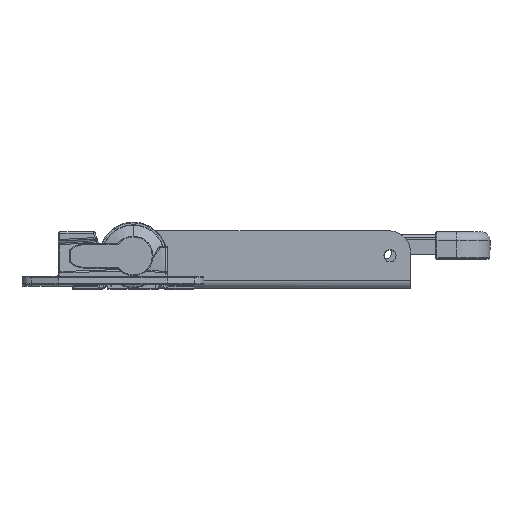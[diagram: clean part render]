
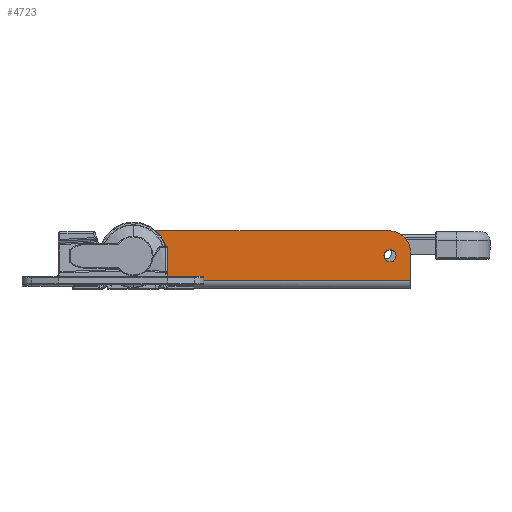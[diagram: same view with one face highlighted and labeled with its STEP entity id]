
A CAD part, top view. The second image highlights one B-rep face of the part: STEP entity #4723.
In plain terms, the highlighted planar face has unit normal (0, 0, 1).
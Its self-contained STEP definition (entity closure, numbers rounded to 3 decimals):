
#100 = AXIS2_PLACEMENT_3D ( 'NONE', #5337, #35393, #9665 ) ;
#169 = AXIS2_PLACEMENT_3D ( 'NONE', #19546, #28204, #2476 ) ;
#379 = CARTESIAN_POINT ( 'NONE',  ( 0., 0., 119. ) ) ;
#471 = EDGE_CURVE ( 'NONE', #25699, #53240, #38177, .T. ) ;
#709 = CARTESIAN_POINT ( 'NONE',  ( 20.076, 38.735, 119. ) ) ;
#712 = ORIENTED_EDGE ( 'NONE', *, *, #11451, .T. ) ;
#948 = FACE_BOUND ( 'NONE', #2206, .T. ) ;
#1162 = VECTOR ( 'NONE', #30846, 1000. ) ;
#2161 = CARTESIAN_POINT ( 'NONE',  ( 17., 21., 119. ) ) ;
#2206 = EDGE_LOOP ( 'NONE', ( #41051, #38574 ) ) ;
#2476 = DIRECTION ( 'NONE',  ( 1., 0., 0. ) ) ;
#2941 = DIRECTION ( 'NONE',  ( 0., 0., 1. ) ) ;
#3908 = ORIENTED_EDGE ( 'NONE', *, *, #44176, .T. ) ;
#4723 = ADVANCED_FACE ( 'NONE', ( #948, #46574, #35238 ), #6607, .T. ) ;
#4906 = EDGE_CURVE ( 'NONE', #27098, #36835, #39916, .T. ) ;
#5337 = CARTESIAN_POINT ( 'NONE',  ( 17., 21., 119. ) ) ;
#5962 = CARTESIAN_POINT ( 'NONE',  ( 5., 21., 119. ) ) ;
#6465 = DIRECTION ( 'NONE',  ( 1., 0., 0. ) ) ;
#6607 = PLANE ( 'NONE',  #169 ) ;
#6833 = CARTESIAN_POINT ( 'NONE',  ( 29., 21., 119. ) ) ;
#8487 = CIRCLE ( 'NONE', #17750, 18. ) ;
#9665 = DIRECTION ( 'NONE',  ( 1., 0., 0. ) ) ;
#9740 = ORIENTED_EDGE ( 'NONE', *, *, #24235, .F. ) ;
#11090 = CARTESIAN_POINT ( 'NONE',  ( 28.619, 88., 119. ) ) ;
#11451 = EDGE_CURVE ( 'NONE', #44495, #48582, #28677, .T. ) ;
#11495 = CIRCLE ( 'NONE', #30649, 4. ) ;
#12089 = EDGE_CURVE ( 'NONE', #48582, #25699, #8487, .T. ) ;
#12489 = LINE ( 'NONE', #30456, #53980 ) ;
#14460 = DIRECTION ( 'NONE',  ( 0., 0., 1. ) ) ;
#15060 = CIRCLE ( 'NONE', #50064, 12. ) ;
#15397 = DIRECTION ( 'NONE',  ( 1., 0., 0. ) ) ;
#15555 = ORIENTED_EDGE ( 'NONE', *, *, #53148, .T. ) ;
#16338 = ORIENTED_EDGE ( 'NONE', *, *, #471, .T. ) ;
#16553 = CARTESIAN_POINT ( 'NONE',  ( 186., 24., 119. ) ) ;
#17171 = CIRCLE ( 'NONE', #29743, 4. ) ;
#17340 = DIRECTION ( 'NONE',  ( 0., 0., 1. ) ) ;
#17750 = AXIS2_PLACEMENT_3D ( 'NONE', #28666, #2941, #32998 ) ;
#18757 = CARTESIAN_POINT ( 'NONE',  ( 186.5, 21.5, 119. ) ) ;
#19198 = VECTOR ( 'NONE', #45949, 1000. ) ;
#19546 = CARTESIAN_POINT ( 'NONE',  ( 0., 0., 119. ) ) ;
#19644 = AXIS2_PLACEMENT_3D ( 'NONE', #11090, #41108, #15397 ) ;
#19714 = EDGE_CURVE ( 'NONE', #29307, #55396, #11495, .T. ) ;
#20860 = DIRECTION ( 'NONE',  ( 1., 0., 0. ) ) ;
#21249 = CARTESIAN_POINT ( 'NONE',  ( -0.979, 20.126, 119. ) ) ;
#21811 = DIRECTION ( 'NONE',  ( 0., 1., 0. ) ) ;
#23074 = DIRECTION ( 'NONE',  ( 1., 0., 0. ) ) ;
#24235 = EDGE_CURVE ( 'NONE', #55396, #29307, #17171, .T. ) ;
#24811 = CARTESIAN_POINT ( 'NONE',  ( 200., 5., 119. ) ) ;
#25699 = VERTEX_POINT ( 'NONE', #21249 ) ;
#26362 = EDGE_CURVE ( 'NONE', #30190, #39190, #15060, .T. ) ;
#27098 = VERTEX_POINT ( 'NONE', #32796 ) ;
#27246 = EDGE_LOOP ( 'NONE', ( #15555, #35346, #55261, #3908, #712, #50761, #16338, #34761 ) ) ;
#27798 = CARTESIAN_POINT ( 'NONE',  ( 186., 38., 119. ) ) ;
#27897 = CARTESIAN_POINT ( 'NONE',  ( 182.5, 21.5, 119. ) ) ;
#28204 = DIRECTION ( 'NONE',  ( 0., 0., 1. ) ) ;
#28666 = CARTESIAN_POINT ( 'NONE',  ( 17., 21., 119. ) ) ;
#28677 = CIRCLE ( 'NONE', #100, 18. ) ;
#29307 = VERTEX_POINT ( 'NONE', #27897 ) ;
#29366 = CARTESIAN_POINT ( 'NONE',  ( 190.5, 21.5, 119. ) ) ;
#29743 = AXIS2_PLACEMENT_3D ( 'NONE', #18757, #48683, #23074 ) ;
#30190 = VERTEX_POINT ( 'NONE', #5962 ) ;
#30456 = CARTESIAN_POINT ( 'NONE',  ( 200., 0., 119. ) ) ;
#30649 = AXIS2_PLACEMENT_3D ( 'NONE', #43016, #17340, #47263 ) ;
#30675 = EDGE_LOOP ( 'NONE', ( #42996, #9740 ) ) ;
#30846 = DIRECTION ( 'NONE',  ( 1., 0., 0. ) ) ;
#32217 = DIRECTION ( 'NONE',  ( 0., 0., 1. ) ) ;
#32796 = CARTESIAN_POINT ( 'NONE',  ( 200., 24., 119. ) ) ;
#32998 = DIRECTION ( 'NONE',  ( 1., 0., 0. ) ) ;
#34761 = ORIENTED_EDGE ( 'NONE', *, *, #39473, .T. ) ;
#35079 = VERTEX_POINT ( 'NONE', #50685 ) ;
#35238 = FACE_OUTER_BOUND ( 'NONE', #27246, .T. ) ;
#35346 = ORIENTED_EDGE ( 'NONE', *, *, #4906, .T. ) ;
#35393 = DIRECTION ( 'NONE',  ( 0., 0., 1. ) ) ;
#35433 = LINE ( 'NONE', #39276, #1162 ) ;
#36835 = VERTEX_POINT ( 'NONE', #27798 ) ;
#37395 = CARTESIAN_POINT ( 'NONE',  ( 0., 38., 119. ) ) ;
#37588 = AXIS2_PLACEMENT_3D ( 'NONE', #16553, #46508, #20860 ) ;
#38177 = LINE ( 'NONE', #379, #48152 ) ;
#38574 = ORIENTED_EDGE ( 'NONE', *, *, #46388, .F. ) ;
#39060 = DIRECTION ( 'NONE',  ( 0.049, -0.999, 0. ) ) ;
#39190 = VERTEX_POINT ( 'NONE', #6833 ) ;
#39276 = CARTESIAN_POINT ( 'NONE',  ( 200., 5., 119. ) ) ;
#39473 = EDGE_CURVE ( 'NONE', #53240, #41446, #35433, .T. ) ;
#39606 = CIRCLE ( 'NONE', #19644, 50. ) ;
#39916 = CIRCLE ( 'NONE', #37588, 14. ) ;
#40180 = CARTESIAN_POINT ( 'NONE',  ( 17., 21., 119. ) ) ;
#41051 = ORIENTED_EDGE ( 'NONE', *, *, #26362, .F. ) ;
#41108 = DIRECTION ( 'NONE',  ( 0., 0., -1. ) ) ;
#41412 = CIRCLE ( 'NONE', #54925, 12. ) ;
#41421 = EDGE_CURVE ( 'NONE', #36835, #35079, #53363, .T. ) ;
#41446 = VERTEX_POINT ( 'NONE', #24811 ) ;
#41743 = CARTESIAN_POINT ( 'NONE',  ( -1., 21., 119. ) ) ;
#42996 = ORIENTED_EDGE ( 'NONE', *, *, #19714, .F. ) ;
#43016 = CARTESIAN_POINT ( 'NONE',  ( 186.5, 21.5, 119. ) ) ;
#44176 = EDGE_CURVE ( 'NONE', #35079, #44495, #39606, .T. ) ;
#44441 = DIRECTION ( 'NONE',  ( 1., 0., 0. ) ) ;
#44495 = VERTEX_POINT ( 'NONE', #709 ) ;
#45949 = DIRECTION ( 'NONE',  ( -1., 0., 0. ) ) ;
#46388 = EDGE_CURVE ( 'NONE', #39190, #30190, #41412, .T. ) ;
#46508 = DIRECTION ( 'NONE',  ( 0., 0., 1. ) ) ;
#46574 = FACE_BOUND ( 'NONE', #30675, .T. ) ;
#47263 = DIRECTION ( 'NONE',  ( 1., 0., 0. ) ) ;
#48152 = VECTOR ( 'NONE', #39060, 1000. ) ;
#48360 = CARTESIAN_POINT ( 'NONE',  ( -0.243, 5., 119. ) ) ;
#48582 = VERTEX_POINT ( 'NONE', #41743 ) ;
#48683 = DIRECTION ( 'NONE',  ( 0., 0., 1. ) ) ;
#50064 = AXIS2_PLACEMENT_3D ( 'NONE', #40180, #14460, #44441 ) ;
#50685 = CARTESIAN_POINT ( 'NONE',  ( 28.619, 38., 119. ) ) ;
#50761 = ORIENTED_EDGE ( 'NONE', *, *, #12089, .T. ) ;
#53148 = EDGE_CURVE ( 'NONE', #41446, #27098, #12489, .T. ) ;
#53240 = VERTEX_POINT ( 'NONE', #48360 ) ;
#53363 = LINE ( 'NONE', #37395, #19198 ) ;
#53980 = VECTOR ( 'NONE', #21811, 1000. ) ;
#54925 = AXIS2_PLACEMENT_3D ( 'NONE', #2161, #32217, #6465 ) ;
#55261 = ORIENTED_EDGE ( 'NONE', *, *, #41421, .T. ) ;
#55396 = VERTEX_POINT ( 'NONE', #29366 ) ;
